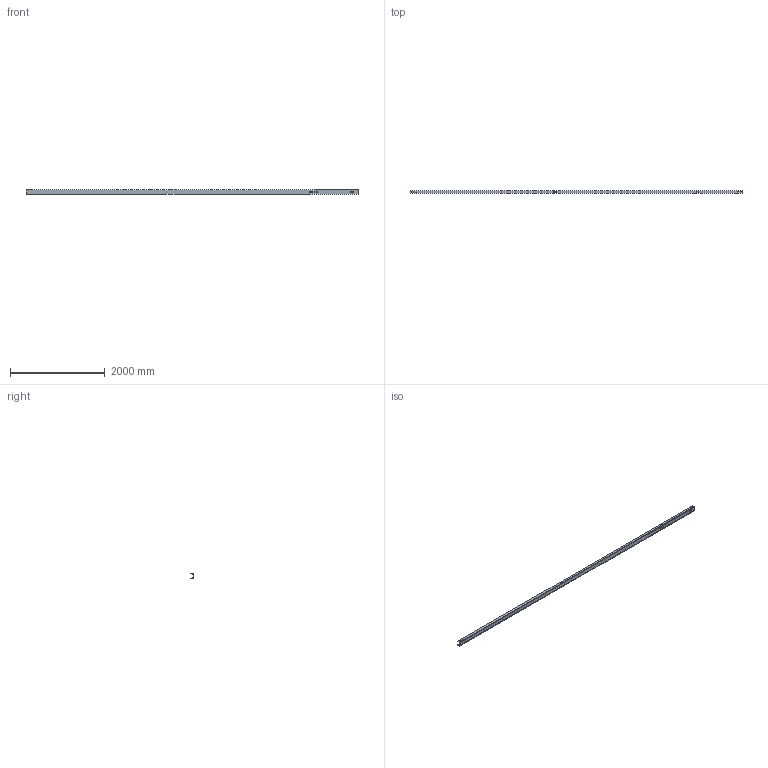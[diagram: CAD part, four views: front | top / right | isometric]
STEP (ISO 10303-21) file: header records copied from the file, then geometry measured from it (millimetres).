
FILE_DESCRIPTION (( 'STEP AP214' ), '1' );
FILE_NAME ('CCJ029-REP.007 - POUTRE B1-B4.STEP', '2024-01-31T08:34:45', ( '' ), ( '' ), 'SwSTEP 2.0', 'SolidWorks 2021', '' );
FILE_SCHEMA (( 'AUTOMOTIVE_DESIGN' ));
Length unit declared in the file: millimetre
Products named in the file (1): CCJ029-REP.007 - POUTRE B1-B4
Bounding box: 6995 x 55 x 100 mm (x, y, z)
Volume: 8721691.2 mm3; surface area: 2817237.1 mm2
Topology: 1 solids, 1 shells, 89 faces, 246 edges, 164 vertices
Faces by surface type: cylinder 50, plane 21, bspline 18
Entity records: 4454 total; most frequent: CARTESIAN_POINT 2070, ORIENTED_EDGE 492, DIRECTION 454, EDGE_CURVE 246, AXIS2_PLACEMENT_3D 172, VERTEX_POINT 164, EDGE_LOOP 142, LINE 110
